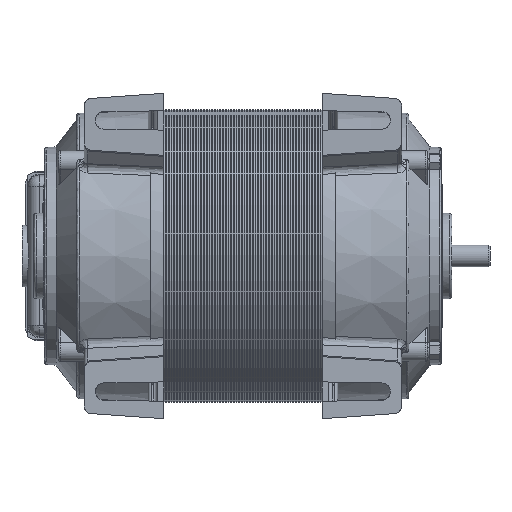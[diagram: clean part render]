
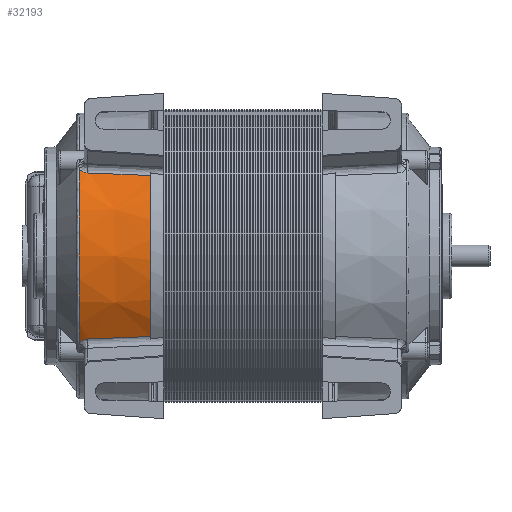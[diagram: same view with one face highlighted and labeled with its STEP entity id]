
A CAD part, front view. The second image highlights one B-rep face of the part: STEP entity #32193.
In plain terms, the highlighted conical face has half-angle 2 degrees and reference radius 58.483 mm.
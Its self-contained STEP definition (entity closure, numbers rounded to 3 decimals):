
#1599 = CARTESIAN_POINT ( 'NONE',  ( -24.37, 18.99, 138.495 ) ) ;
#3496 = ORIENTED_EDGE ( 'NONE', *, *, #38882, .F. ) ;
#4645 = CARTESIAN_POINT ( 'NONE',  ( -23.569, 18.932, 70.437 ) ) ;
#5562 = CARTESIAN_POINT ( 'NONE',  ( 1.633, 7.176, 107.364 ) ) ;
#6012 = CARTESIAN_POINT ( 'NONE',  ( -24.732, 19.043, 70.351 ) ) ;
#6543 = CIRCLE ( 'NONE', #59237, 58.483 ) ;
#7575 = CARTESIAN_POINT ( 'NONE',  ( 1.633, 11.618, 127.196 ) ) ;
#7722 = ORIENTED_EDGE ( 'NONE', *, *, #86709, .T. ) ;
#8041 = CARTESIAN_POINT ( 'NONE',  ( -15.251, 18.337, 138.128 ) ) ;
#9770 = CARTESIAN_POINT ( 'NONE',  ( -23.569, 18.932, 138.463 ) ) ;
#11786 = VERTEX_POINT ( 'NONE', #100778 ) ;
#12745 = CARTESIAN_POINT ( 'NONE',  ( -26.376, 19.573, 69.721 ) ) ;
#13296 = CARTESIAN_POINT ( 'NONE',  ( 1.633, 8.243, 92.859 ) ) ;
#13898 = CARTESIAN_POINT ( 'NONE',  ( -6.85, 17.744, 71.115 ) ) ;
#15003 = VERTEX_POINT ( 'NONE', #47749 ) ;
#17668 = CARTESIAN_POINT ( 'NONE',  ( -23.996, 18.963, 70.42 ) ) ;
#18694 = CARTESIAN_POINT ( 'NONE',  ( -23.712, 18.943, 70.432 ) ) ;
#21033 = CARTESIAN_POINT ( 'NONE',  ( 1.633, 11.618, 81.705 ) ) ;
#22542 = CARTESIAN_POINT ( 'NONE',  ( 1.633, 10.569, 124.469 ) ) ;
#26583 = CARTESIAN_POINT ( 'NONE',  ( -23.854, 18.953, 138.475 ) ) ;
#27661 = EDGE_CURVE ( 'NONE', #15003, #74722, #90149, .T. ) ;
#27921 = B_SPLINE_CURVE_WITH_KNOTS ( 'NONE', 3,
 ( #63659, #26583, #89378, #96572 ),
 .UNSPECIFIED., .F., .F.,
 ( 4, 4 ),
 ( 0., 1. ),
 .UNSPECIFIED. ) ;
#28240 = EDGE_CURVE ( 'NONE', #39625, #90133, #56951, .T. ) ;
#28724 = CARTESIAN_POINT ( 'NONE',  ( -25.765, 19.311, 70.041 ) ) ;
#29466 = CARTESIAN_POINT ( 'NONE',  ( -27.486, 66.675, 104.45 ) ) ;
#30892 = ORIENTED_EDGE ( 'NONE', *, *, #27661, .F. ) ;
#31059 = CARTESIAN_POINT ( 'NONE',  ( -25.764, 19.311, 138.859 ) ) ;
#32048 = CARTESIAN_POINT ( 'NONE',  ( -27.328, 20.257, 140.036 ) ) ;
#32193 = ADVANCED_FACE ( 'NONE', ( #91758 ), #73108, .T. ) ;
#34186 = CARTESIAN_POINT ( 'NONE',  ( -23.569, 18.932, 70.437 ) ) ;
#34800 = ORIENTED_EDGE ( 'NONE', *, *, #43869, .F. ) ;
#35403 = CARTESIAN_POINT ( 'NONE',  ( -26.65, 19.724, 69.531 ) ) ;
#36907 = AXIS2_PLACEMENT_3D ( 'NONE', #29466, #92777, #69586 ) ;
#36927 = CARTESIAN_POINT ( 'NONE',  ( -27.131, 20.071, 69.098 ) ) ;
#36993 = CARTESIAN_POINT ( 'NONE',  ( 1.633, 7.39, 110.277 ) ) ;
#38172 = EDGE_CURVE ( 'NONE', #90133, #41852, #6543, .T. ) ;
#38882 = EDGE_CURVE ( 'NONE', #69228, #11786, #62610, .T. ) ;
#39483 = CARTESIAN_POINT ( 'NONE',  ( 1.633, 17.155, 137.434 ) ) ;
#39625 = VERTEX_POINT ( 'NONE', #53643 ) ;
#40767 = CARTESIAN_POINT ( 'NONE',  ( -26.642, 19.73, 139.376 ) ) ;
#40959 = EDGE_CURVE ( 'NONE', #41852, #45676, #100473, .T. ) ;
#41852 = VERTEX_POINT ( 'NONE', #53529 ) ;
#42944 = DIRECTION ( 'NONE',  ( 0., 1., 0. ) ) ;
#43869 = EDGE_CURVE ( 'NONE', #39625, #69228, #27921, .T. ) ;
#44237 = CARTESIAN_POINT ( 'NONE',  ( 1.633, 17.155, 71.466 ) ) ;
#44729 = CARTESIAN_POINT ( 'NONE',  ( 1.633, 7.39, 98.623 ) ) ;
#45676 = VERTEX_POINT ( 'NONE', #67925 ) ;
#46737 = ORIENTED_EDGE ( 'NONE', *, *, #38172, .T. ) ;
#46974 = CARTESIAN_POINT ( 'NONE',  ( -27.486, 20.462, 140.291 ) ) ;
#47749 = CARTESIAN_POINT ( 'NONE',  ( 1.633, 17.155, 71.466 ) ) ;
#48757 = CARTESIAN_POINT ( 'NONE',  ( -23.569, 18.932, 138.463 ) ) ;
#50131 = CARTESIAN_POINT ( 'NONE',  ( -23.854, 18.953, 70.426 ) ) ;
#51901 = CARTESIAN_POINT ( 'NONE',  ( -25.436, 19.206, 70.168 ) ) ;
#52453 = CARTESIAN_POINT ( 'NONE',  ( 1.633, 10.569, 84.431 ) ) ;
#53529 = CARTESIAN_POINT ( 'NONE',  ( -27.486, 20.462, 68.609 ) ) ;
#53643 = CARTESIAN_POINT ( 'NONE',  ( -23.996, 18.963, 138.48 ) ) ;
#54988 = CARTESIAN_POINT ( 'NONE',  ( 1.633, 14.103, 132.466 ) ) ;
#56951 = B_SPLINE_CURVE_WITH_KNOTS ( 'NONE', 3,
 ( #70157, #1599, #63949, #101617, #31059, #72163, #93854, #40767, #62961, #78860, #32048, #64458 ),
 .UNSPECIFIED., .F., .F.,
 ( 4, 2, 2, 2, 2, 4 ),
 ( 0., 0.25, 0.5, 0.625, 0.75, 1. ),
 .UNSPECIFIED. ) ;
#58719 = CARTESIAN_POINT ( 'NONE',  ( -23.569, 18.932, 70.437 ) ) ;
#58875 = ORIENTED_EDGE ( 'NONE', *, *, #60827, .F. ) ;
#59133 = CARTESIAN_POINT ( 'NONE',  ( -27.328, 20.257, 68.864 ) ) ;
#59237 = AXIS2_PLACEMENT_3D ( 'NONE', #89257, #76198, #42944 ) ;
#60827 = EDGE_CURVE ( 'NONE', #74722, #45676, #75226, .T. ) ;
#62610 = B_SPLINE_CURVE_WITH_KNOTS ( 'NONE', 3,
 ( #48757, #8041, #80124, #39483 ),
 .UNSPECIFIED., .F., .F.,
 ( 4, 4 ),
 ( 0., 1. ),
 .UNSPECIFIED. ) ;
#62961 = CARTESIAN_POINT ( 'NONE',  ( -26.771, 19.811, 139.478 ) ) ;
#63659 = CARTESIAN_POINT ( 'NONE',  ( -23.996, 18.963, 138.48 ) ) ;
#63949 = CARTESIAN_POINT ( 'NONE',  ( -24.732, 19.044, 138.549 ) ) ;
#64458 = CARTESIAN_POINT ( 'NONE',  ( -27.486, 20.462, 140.291 ) ) ;
#66299 = CARTESIAN_POINT ( 'NONE',  ( -23.996, 18.963, 70.42 ) ) ;
#67292 = CARTESIAN_POINT ( 'NONE',  ( -24.37, 18.99, 70.405 ) ) ;
#67925 = CARTESIAN_POINT ( 'NONE',  ( -23.996, 18.963, 70.42 ) ) ;
#68699 = ORIENTED_EDGE ( 'NONE', *, *, #28240, .T. ) ;
#69228 = VERTEX_POINT ( 'NONE', #9770 ) ;
#69586 = DIRECTION ( 'NONE',  ( 0., 0., -1. ) ) ;
#69616 = EDGE_LOOP ( 'NONE', ( #7722, #3496, #34800, #68699, #46737, #80989, #58875, #30892 ) ) ;
#70157 = CARTESIAN_POINT ( 'NONE',  ( -23.996, 18.963, 138.48 ) ) ;
#70875 = CARTESIAN_POINT ( 'NONE',  ( 1.633, 8.881, 118.892 ) ) ;
#71397 = CARTESIAN_POINT ( 'NONE',  ( 1.633, 15.54, 135.009 ) ) ;
#72163 = CARTESIAN_POINT ( 'NONE',  ( -26.224, 19.507, 139.1 ) ) ;
#73108 = CONICAL_SURFACE ( 'NONE', #36907, 58.483, 0.035 ) ;
#74722 = VERTEX_POINT ( 'NONE', #58719 ) ;
#75101 = CARTESIAN_POINT ( 'NONE',  ( 1.633, 15.54, 73.891 ) ) ;
#75226 = B_SPLINE_CURVE_WITH_KNOTS ( 'NONE', 3,
 ( #34186, #18694, #50131, #17668 ),
 .UNSPECIFIED., .F., .F.,
 ( 4, 4 ),
 ( 0., 1. ),
 .UNSPECIFIED. ) ;
#76098 = CARTESIAN_POINT ( 'NONE',  ( 1.633, 7.176, 101.537 ) ) ;
#76198 = DIRECTION ( 'NONE',  ( 1., 0., 0. ) ) ;
#78860 = CARTESIAN_POINT ( 'NONE',  ( -27.129, 20.069, 139.801 ) ) ;
#80124 = CARTESIAN_POINT ( 'NONE',  ( -6.85, 17.744, 137.785 ) ) ;
#80989 = ORIENTED_EDGE ( 'NONE', *, *, #40959, .T. ) ;
#82900 = CARTESIAN_POINT ( 'NONE',  ( -15.251, 18.337, 70.772 ) ) ;
#83850 = CARTESIAN_POINT ( 'NONE',  ( 1.633, 8.881, 90.009 ) ) ;
#86709 = EDGE_CURVE ( 'NONE', #15003, #11786, #99605, .T. ) ;
#87348 = CARTESIAN_POINT ( 'NONE',  ( 1.633, 17.155, 137.434 ) ) ;
#89257 = CARTESIAN_POINT ( 'NONE',  ( -27.486, 66.675, 104.45 ) ) ;
#89378 = CARTESIAN_POINT ( 'NONE',  ( -23.712, 18.943, 138.469 ) ) ;
#90133 = VERTEX_POINT ( 'NONE', #46974 ) ;
#90149 = B_SPLINE_CURVE_WITH_KNOTS ( 'NONE', 3,
 ( #91155, #13898, #82900, #4645 ),
 .UNSPECIFIED., .F., .F.,
 ( 4, 4 ),
 ( 0., 1. ),
 .UNSPECIFIED. ) ;
#91155 = CARTESIAN_POINT ( 'NONE',  ( 1.633, 17.155, 71.466 ) ) ;
#91587 = CARTESIAN_POINT ( 'NONE',  ( 1.633, 14.103, 76.435 ) ) ;
#91758 = FACE_OUTER_BOUND ( 'NONE', #69616, .T. ) ;
#92777 = DIRECTION ( 'NONE',  ( 1., 0., 0. ) ) ;
#93100 = CARTESIAN_POINT ( 'NONE',  ( 1.633, 8.243, 116.041 ) ) ;
#93854 = CARTESIAN_POINT ( 'NONE',  ( -26.369, 19.578, 139.187 ) ) ;
#96572 = CARTESIAN_POINT ( 'NONE',  ( -23.569, 18.932, 138.463 ) ) ;
#99254 = CARTESIAN_POINT ( 'NONE',  ( -27.486, 20.462, 68.609 ) ) ;
#99605 = B_SPLINE_CURVE_WITH_KNOTS ( 'NONE', 3,
 ( #44237, #75101, #91587, #21033, #52453, #83850, #13296, #44729, #76098, #5562, #36993, #93100, #70875, #22542, #7575, #54988, #71397, #87348 ),
 .UNSPECIFIED., .F., .F.,
 ( 4, 2, 2, 2, 2, 2, 2, 2, 4 ),
 ( 0., 0.125, 0.25, 0.375, 0.5, 0.625, 0.75, 0.875, 1. ),
 .UNSPECIFIED. ) ;
#100473 = B_SPLINE_CURVE_WITH_KNOTS ( 'NONE', 3,
 ( #99254, #59133, #36927, #35403, #12745, #28724, #51901, #6012, #67292, #66299 ),
 .UNSPECIFIED., .F., .F.,
 ( 4, 2, 2, 2, 4 ),
 ( 0., 0.25, 0.5, 0.75, 1. ),
 .UNSPECIFIED. ) ;
#100778 = CARTESIAN_POINT ( 'NONE',  ( 1.633, 17.155, 137.434 ) ) ;
#101617 = CARTESIAN_POINT ( 'NONE',  ( -25.435, 19.206, 138.733 ) ) ;
